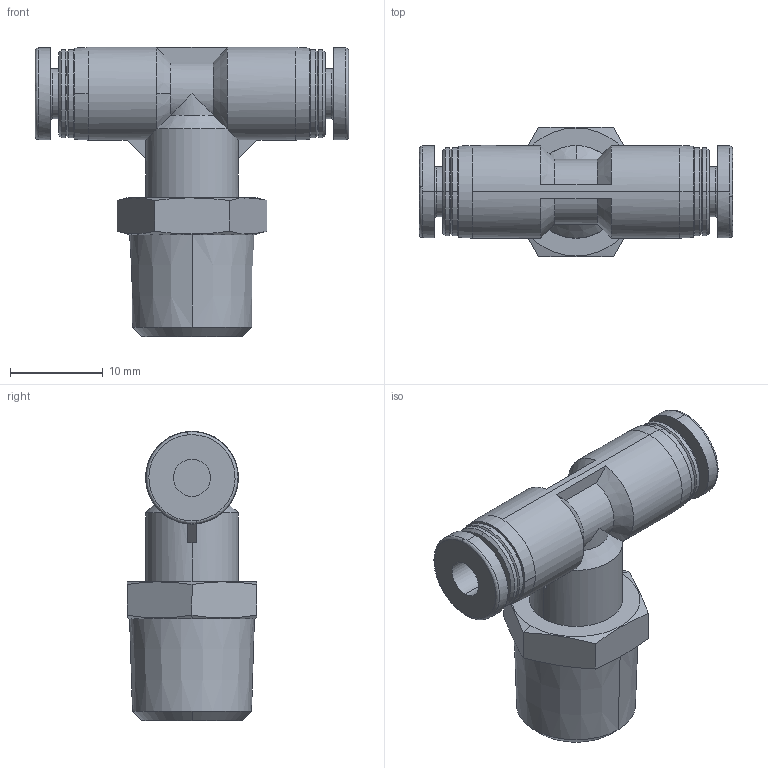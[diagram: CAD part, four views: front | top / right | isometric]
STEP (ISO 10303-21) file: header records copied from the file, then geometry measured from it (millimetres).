
FILE_DESCRIPTION (( 'STEP AP214' ), '1' );
FILE_NAME ('APT4-02.STEP', '2019-12-05T06:48:32', ( '微软用户' ), ( '微软中国' ), 'SwSTEP 2.0', 'SolidWorks 2016', '' );
FILE_SCHEMA (( 'AUTOMOTIVE_DESIGN' ));
Length unit declared in the file: millimetre
Products named in the file (1): APT4-02
Bounding box: 33.8 x 14 x 31.2 mm (x, y, z)
Volume: 4658.8 mm3; surface area: 2807.5 mm2
Topology: 1 solids, 1 shells, 103 faces, 243 edges, 151 vertices
Faces by surface type: cone 41, cylinder 28, plane 26, bspline 8
Entity records: 3442 total; most frequent: CARTESIAN_POINT 1090, DIRECTION 498, ORIENTED_EDGE 486, EDGE_CURVE 243, AXIS2_PLACEMENT_3D 208, VERTEX_POINT 151, EDGE_LOOP 112, CIRCLE 112
